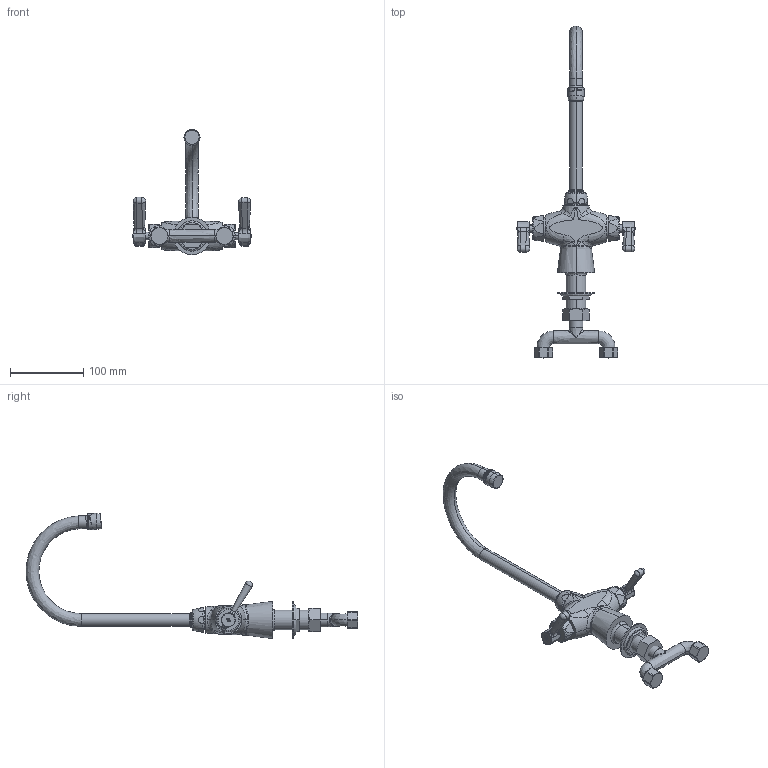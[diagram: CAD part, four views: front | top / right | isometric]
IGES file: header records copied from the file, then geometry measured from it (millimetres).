
Start section:  PTC IGES file: 50-TABCP_REV030810.igs
Global section: file name: 50-TABCP_REV030810.igs; native system: Pro/ENGINEER by Parametric Technology Corporation; preprocessor: 2009230; author: sdmitruk; organization: Unknown; date: 20100308.094830; units: inch
Bounding box: 161.32 x 452.67 x 170.8 mm (x, y, z)
Surface area: 89830.1 mm2 (no closed solid volume)
Topology: 0 solids, 24 shells, 375 faces, 953 edges, 588 vertices
Faces by surface type: bspline 195, revolution 180
